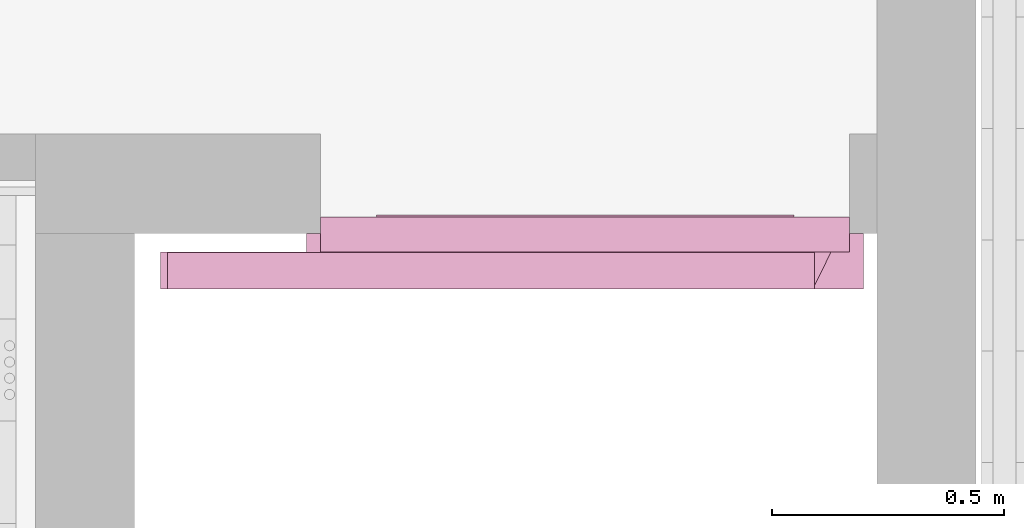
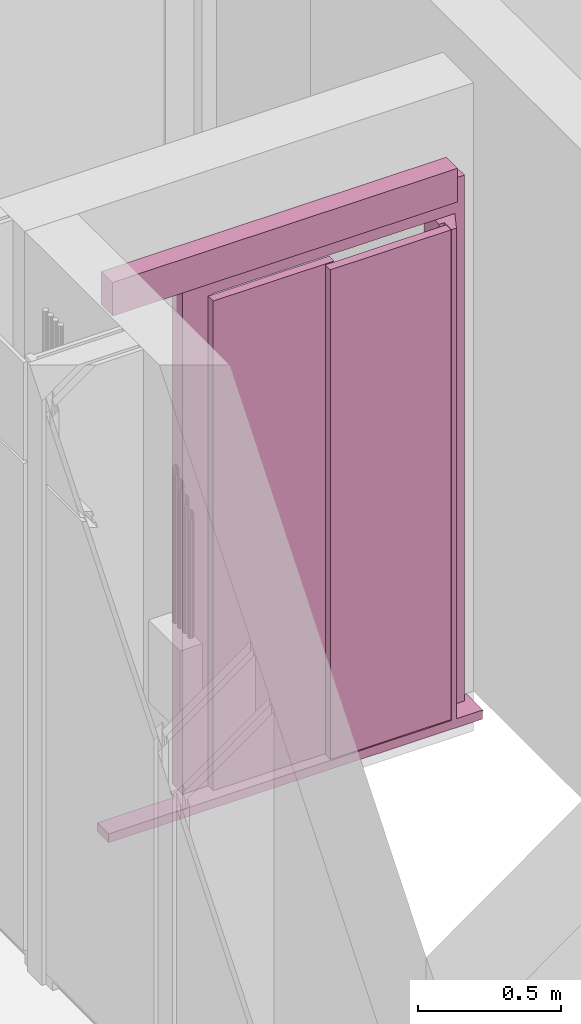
# One storey, part 16 of 22: 1 transport element.
"""IFC2X3 building model written with IfcOpenShell, lengths in millimetres."""

from ifc_helpers import new_model, entity, si_unit, converted_unit, derived_unit, money_unit, direction, frame, origin_with_axes, place, context, subcontext, project, spatial, faceted_brep, source, transform, mapped, material, type_object, type_shapes, element, save


model = new_model("IFC2X3")

# Units and contexts
model_context = context("Model", 3, precision=0.01, world=origin_with_axes(), true_north=direction((0.0, 1.0)))
body_context = subcontext(model_context, "Body", "Model", "MODEL_VIEW")
ifc_project = project(units=[si_unit("LENGTHUNIT", "METRE", prefix="MILLI"), si_unit("AREAUNIT", "SQUARE_METRE"), si_unit("VOLUMEUNIT", "CUBIC_METRE"), converted_unit("PLANEANGLEUNIT", "DEGREE", entity("IfcPlaneAngleMeasure", 0.0174532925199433), si_unit("PLANEANGLEUNIT", "RADIAN"), dimensions=[0, 0, 0, 0, 0, 0, 0]), money_unit("EUR"), converted_unit("TIMEUNIT", "Year", entity("IfcTimeMeasure", 31557600.0), si_unit("TIMEUNIT", "SECOND"), dimensions=[0, 0, 1, 0, 0, 0, 0]), si_unit("MASSUNIT", "GRAM", prefix="KILO"), si_unit("THERMODYNAMICTEMPERATUREUNIT", "DEGREE_CELSIUS"), si_unit("LUMINOUSINTENSITYUNIT", "LUMEN"), si_unit("ENERGYUNIT", "JOULE", prefix="MEGA"), derived_unit("THERMALCONDUCTANCEUNIT", [(si_unit("POWERUNIT", "WATT"), 1), (si_unit("LENGTHUNIT", "METRE"), -1), (si_unit("THERMODYNAMICTEMPERATUREUNIT", "KELVIN"), -1)]), derived_unit("SPECIFICHEATCAPACITYUNIT", [(si_unit("ENERGYUNIT", "JOULE"), 1), (si_unit("MASSUNIT", "GRAM", prefix="KILO"), -1), (si_unit("THERMODYNAMICTEMPERATUREUNIT", "KELVIN"), -1)]), derived_unit("MASSDENSITYUNIT", [(si_unit("MASSUNIT", "GRAM", prefix="KILO"), 1), (si_unit("VOLUMEUNIT", "CUBIC_METRE"), -1)])], contexts=[model_context])

# Site, building, storey
site_placement = place(None, origin_with_axes())
site = spatial("IfcSite", under=ifc_project, at=site_placement, Name="Site", CompositionType="ELEMENT")
building_placement = place(site_placement, origin_with_axes())
building = spatial("IfcBuilding", under=site, at=building_placement, Name="Naam gebouw", CompositionType="ELEMENT")
storey_placement = place(building_placement, frame((0.0, 0.0, 11150.0), z_axis=(0.0, 0.0, 1.0), x_axis=(1.0, 0.0, 0.0)))
storey = spatial("IfcBuildingStorey", under=building, at=storey_placement, Name="3e verdieping/dak N", CompositionType="ELEMENT", Elevation=11150.0)

# Transport element
ifc_material = material(Name="IFC Building Material")
transport_element_type = type_object("IfcTransportElementType", Name="KONE_LDO_Design_2R_P19:KONE_LDO_Design_2R_P19", PredefinedType="ELEVATOR")
shared_shape = source(origin_with_axes(), body_context, "Body", "Brep", [
    faceted_brep([(-18.25000000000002, -44.44382209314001, 8.5), (-18.25000000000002, -79.44382209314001, 8.5), (-18.25000000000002, -79.44382209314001, 2099.00000000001), (-18.25000000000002, -44.44382209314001, 2099.00000000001), (468.2500000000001, -44.44382209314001, 8.5), (468.2500000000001, -79.44382209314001, 8.5), (468.2500000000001, -79.44382209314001, 2099.00000000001), (468.2500000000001, -44.44382209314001, 2099.00000000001)], [[[0, 1, 2, 3]], [[0, 4, 5, 1]], [[1, 5, 6, 2]], [[3, 2, 6, 7]], [[4, 0, 3, 7]], [[5, 4, 7, 6]]]),
    faceted_brep([(-19.25000000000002, -79.44382209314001, 7.500000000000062), (-19.25000000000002, -79.44382209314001, 2100.0), (-19.25000000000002, -44.44382209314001, 2100.0), (-19.25000000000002, -44.44382209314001, 7.500000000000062), (469.25000692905, -79.44382209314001, 7.500000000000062), (469.25000692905, -79.44382209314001, 2100.0), (468.25001039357, -79.44382209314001, 2099.00000346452), (468.25001039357, -79.44382209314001, 8.499996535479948), (-18.25000346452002, -79.44382209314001, 8.499996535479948), (-18.25000346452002, -79.44382209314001, 2099.00000346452), (469.25000692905, -44.44382209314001, 2100.0), (469.25000692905, -44.44382209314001, 7.500000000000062), (468.25001039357, -44.44382209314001, 2099.00000346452), (-18.25000346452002, -44.44382209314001, 2099.00000346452), (-18.25000346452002, -44.44382209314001, 8.499996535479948), (468.25001039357, -44.44382209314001, 8.499996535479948)], [[[0, 1, 2, 3]], [[0, 4, 5, 1], [6, 7, 8, 9]], [[1, 5, 10, 2]], [[3, 2, 10, 11], [12, 13, 14, 15]], [[4, 0, 3, 11]], [[5, 4, 11, 10]], [[7, 6, 12, 15]], [[8, 7, 15, 14]], [[9, 8, 14, 13]], [[6, 9, 13, 12]]]),
    faceted_brep([(-468.2500000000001, -4.443822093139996, 8.5), (-468.2500000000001, -39.44382209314, 8.5), (-468.2500000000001, -39.44382209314, 2099.00000000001), (-468.2500000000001, -4.443822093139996, 2099.00000000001), (18.25000000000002, -4.443822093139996, 8.5), (18.25000000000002, -39.44382209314, 8.5), (18.25000000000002, -39.44382209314, 2099.00000000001), (18.25000000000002, -4.443822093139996, 2099.00000000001)], [[[0, 1, 2, 3]], [[0, 4, 5, 1]], [[1, 5, 6, 2]], [[3, 2, 6, 7]], [[4, 0, 3, 7]], [[5, 4, 7, 6]]]),
    faceted_brep([(-469.2500000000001, -39.44382209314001, 7.500000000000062), (-469.2500000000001, -39.44382209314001, 2100.0), (-469.2500000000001, -4.443822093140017, 2100.0), (-469.2500000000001, -4.443822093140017, 7.500000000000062), (19.25000692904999, -39.44382209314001, 7.500000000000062), (19.25000692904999, -39.44382209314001, 2100.0), (18.25001039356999, -39.44382209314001, 2099.00000346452), (18.25001039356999, -39.44382209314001, 8.499996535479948), (-468.25000346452, -39.44382209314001, 8.499996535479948), (-468.25000346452, -39.44382209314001, 2099.00000346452), (19.25000692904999, -4.443822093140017, 2100.0), (19.25000692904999, -4.443822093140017, 7.500000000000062), (18.25001039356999, -4.443822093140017, 2099.00000346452), (-468.25000346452, -4.443822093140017, 2099.00000346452), (-468.25000346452, -4.443822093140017, 8.499996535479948), (18.25001039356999, -4.443822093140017, 8.499996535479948)], [[[0, 1, 2, 3]], [[0, 4, 5, 1], [6, 7, 8, 9]], [[1, 5, 10, 2]], [[3, 2, 10, 11], [12, 13, 14, 15]], [[4, 0, 3, 11]], [[5, 4, 11, 10]], [[7, 6, 12, 15]], [[8, 7, 15, 14]], [[9, 8, 14, 13]], [[6, 9, 13, 12]]]),
    faceted_brep([(495.0, -0.9438220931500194, 2210.0), (-900.0, -0.9438220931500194, 2210.0), (-900.0, -0.9438220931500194, 2354.0), (495.0, -0.9438220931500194, 2354.0), (495.0, -79.44382209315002, 2210.0), (-900.0, -79.44382209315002, 2210.0), (-900.0, -79.44382209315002, 2354.0), (495.0, -79.44382209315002, 2354.0)], [[[0, 1, 2, 3]], [[0, 4, 5, 1]], [[1, 5, 6, 2]], [[3, 2, 6, 7]], [[4, 0, 3, 7]], [[5, 4, 7, 6]]]),
    faceted_brep([(570.0000000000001, 75.55617790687, 2100.0), (-570.0000000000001, 75.55617790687, 2100.0), (-570.0000000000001, 75.55617790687, 2250.0), (570.0000000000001, 75.55617790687, 2250.0), (570.0000000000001, 0.5561779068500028, 2100.0), (-570.0000000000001, 0.5561779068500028, 2100.0), (-570.0000000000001, 0.5561779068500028, 2250.0), (570.0000000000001, 0.5561779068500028, 2250.0)], [[[0, 1, 2, 3]], [[0, 4, 5, 1]], [[1, 5, 6, 2]], [[3, 2, 6, 7]], [[4, 0, 3, 7]], [[5, 4, 7, 6]]]),
    faceted_brep([(570.0000000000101, 0.556177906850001, 3.0), (570.0000000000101, 75.55617790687, 3.0), (570.0000000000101, 75.55617790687, 2100.0), (570.0000000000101, 0.556177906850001, 2100.0), (530.1666666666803, 0.556177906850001, 3.0), (491.0000000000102, -79.44382209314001, 3.0), (470.0000000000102, -79.44382209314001, 3.0), (470.0000000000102, -29.44382209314, 3.0), (450.0000000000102, -29.44382209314, 3.0), (450.0000000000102, 75.55617790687, 3.0), (450.0000000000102, 75.55617790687, 2100.0), (450.0000000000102, -29.44382209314, 2100.0), (470.0000000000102, -29.44382209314, 2100.0), (470.0000000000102, -79.44382209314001, 2100.0), (491.0000000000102, -79.44382209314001, 2100.0), (530.1666666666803, 0.556177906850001, 2100.0)], [[[0, 1, 2, 3]], [[0, 4, 5, 6, 7, 8, 9, 1]], [[1, 9, 10, 2]], [[3, 2, 10, 11, 12, 13, 14, 15]], [[4, 0, 3, 15]], [[5, 4, 15, 14]], [[6, 5, 14, 13]], [[7, 6, 13, 12]], [[8, 7, 12, 11]], [[9, 8, 11, 10]]]),
    faceted_brep([(-450.0, 75.55617790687, 3.0), (-570.0000000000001, 75.55617790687, 3.0), (-570.0000000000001, 75.55617790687, 2100.0), (-450.0, 75.55617790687, 2100.0), (-450.0, 0.5561779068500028, 3.0), (-570.0000000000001, 0.5561779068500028, 3.0), (-570.0000000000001, 0.5561779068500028, 2100.0), (-450.0, 0.5561779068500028, 2100.0)], [[[0, 1, 2, 3]], [[0, 4, 5, 1]], [[1, 5, 6, 2]], [[3, 2, 6, 7]], [[4, 0, 3, 7]], [[5, 4, 7, 6]]]),
    faceted_brep([(595.0000000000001, 0.5561779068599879, -34.99999999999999), (-915.0000000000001, 0.5561779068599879, -34.99999999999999), (-915.0000000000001, 0.5561779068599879, 3.000000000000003), (595.0000000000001, 0.5561779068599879, 3.000000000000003), (595.0000000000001, -79.44382209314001, -34.99999999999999), (-915.0000000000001, -79.44382209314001, -34.99999999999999), (-915.0000000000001, -79.44382209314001, 3.000000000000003), (595.0000000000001, -79.44382209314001, 3.000000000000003)], [[[0, 1, 2, 3]], [[0, 4, 5, 1]], [[1, 5, 6, 2]], [[3, 2, 6, 7]], [[4, 0, 3, 7]], [[5, 4, 7, 6]]]),
    faceted_brep([(-450.0, 0.5561779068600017, 0.0), (-450.0, 80.55617790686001, 0.0), (450.0, 80.55617790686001, 0.0), (450.0, 0.5561779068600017, 0.0), (-450.0, 0.5561779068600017, 3.0), (-450.0, 70.55617790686, 3.0), (-450.0, 80.55617790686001, 1.19999999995), (450.0, 80.55617790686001, 1.19999999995), (450.0, 70.55617790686, 3.0), (450.0, 0.5561779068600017, 3.0)], [[[0, 1, 2, 3]], [[0, 4, 5, 6, 1]], [[1, 6, 7, 2]], [[3, 2, 7, 8, 9]], [[4, 0, 3, 9]], [[5, 4, 9, 8]], [[6, 5, 8, 7]]]),
    faceted_brep([(600.0000000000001, 40.55617790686, -2.0), (-600.0000000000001, 40.55617790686, -2.0), (-600.0000000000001, 40.55617790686, 0.0), (600.0000000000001, 40.55617790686, 0.0), (600.0000000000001, -79.44382209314, -2.0), (-600.0000000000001, -79.44382209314, -2.0), (-600.0000000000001, -79.44382209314, 0.0), (600.0000000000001, -79.44382209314, 0.0)], [[[0, 1, 2, 3]], [[0, 4, 5, 1]], [[1, 5, 6, 2]], [[3, 2, 6, 7]], [[4, 0, 3, 7]], [[5, 4, 7, 6]]]),
])
type_shapes(transport_element_type, [shared_shape])
transport_element_placement = place(storey_placement, frame((32869.0000000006, 36759.35624842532, 310.0003545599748), z_axis=(0.0, 0.0, 1.0), x_axis=(1.0, 0.0, 0.0)))
element("IfcTransportElement", 1, at=transport_element_placement, inside=storey, type_object=transport_element_type, material=ifc_material, Name="KONE_LDO_Design_2R_P19:KONE_LDO_Design_2R_P19", ObjectType="ELEVATOR", context=body_context, shape_type="MappedRepresentation", body=[
    mapped(shared_shape, transform((0.0, 0.0, 0.0))),
])

save(model, "model.ifc")
